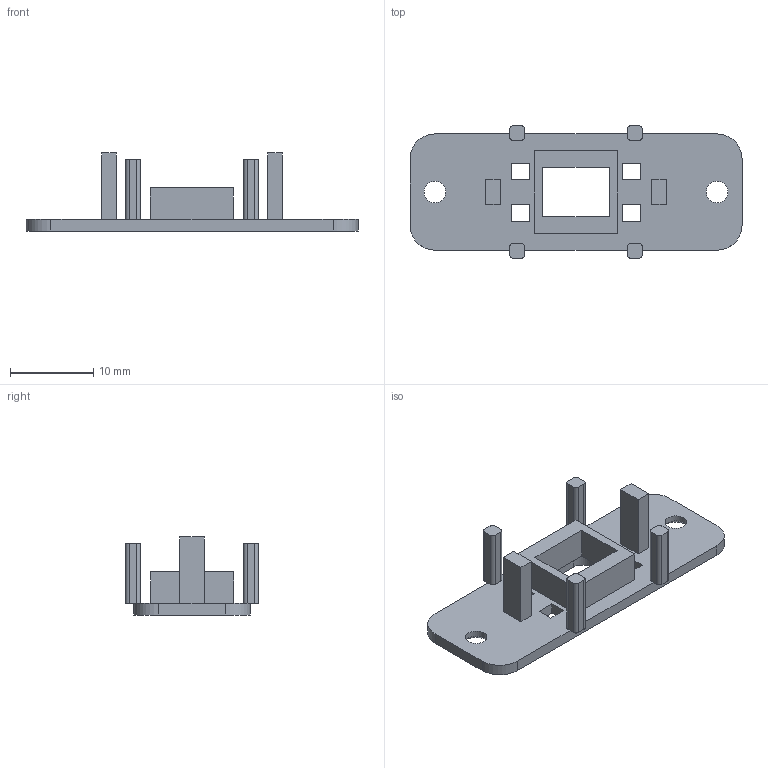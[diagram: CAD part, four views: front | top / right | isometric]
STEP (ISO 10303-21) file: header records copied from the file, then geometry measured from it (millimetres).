
FILE_DESCRIPTION(/* description */ (''),/* implementation_level */ '2;1');
FILE_NAME(/* name */ 'P04.step',/* time_stamp */ '2026-09-14T14:30:31-07:00',/* author */ (''),/* organization */ (''),/* preprocessor_version */ 'ST-DEVELOPER v20.1',/* originating_system */ 'Autodesk Translation Framework v15.8.0.0',/* authorisation */ '');
FILE_SCHEMA (('AUTOMOTIVE_DESIGN { 1 0 10303 214 3 1 1 }'));
Length unit declared in the file: millimetre
Products named in the file (1): 2026-09-14-14-30-31-355
Bounding box: 40 x 16 x 9.4 mm (x, y, z)
Volume: 1017.1 mm3; surface area: 1814.1 mm2
Topology: 1 solids, 1 shells, 98 faces, 268 edges, 176 vertices
Faces by surface type: plane 70, cylinder 26, cone 2
Full cylindrical faces by diameter (mm): 2.6 x2
Entity records: 3145 total; most frequent: CARTESIAN_POINT 543, ORIENTED_EDGE 536, DIRECTION 522, EDGE_CURVE 268, LINE 212, VECTOR 212, VERTEX_POINT 176, AXIS2_PLACEMENT_3D 155
